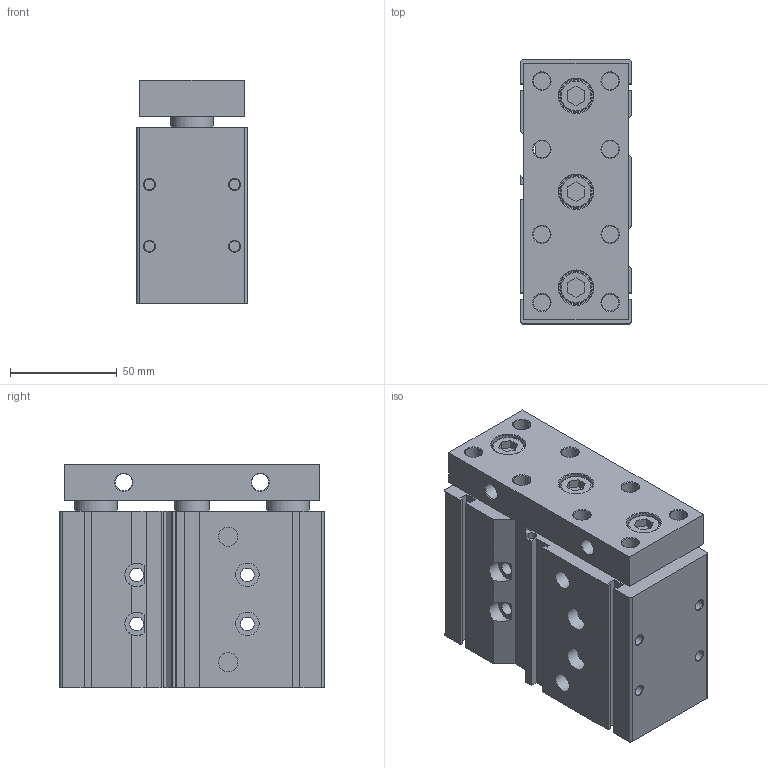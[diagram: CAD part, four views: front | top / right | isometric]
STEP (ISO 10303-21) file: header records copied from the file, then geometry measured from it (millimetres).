
FILE_DESCRIPTION((''),'2;1');
FILE_NAME('I:\3D電子目錄\氣缸\TB(U)\TB(U)40\TB(U)40\TB(U)40x30.stp','2007-08-06T08:29:40',('Administrator'),(''),'Autodesk Inventor 2008','Autodesk Inventor 2008','');
FILE_SCHEMA(('AUTOMOTIVE_DESIGN { 1 0 10303 214 1 1 1 1 }'));
Length unit declared in the file: millimetre
Products named in the file (1): TB(U)40X30
Bounding box: 52 x 124 x 105 mm (x, y, z)
Volume: 578435.9 mm3; surface area: 80050.6 mm2
Topology: 1 solids, 1 shells, 218 faces, 500 edges, 320 vertices
Faces by surface type: plane 104, cylinder 52, cone 37, bspline 22, torus 3
Full cylindrical faces by diameter (mm): 5 x4, 6 x4, 6.5 x4, 8 x10, 9 x2, 11 x6, 15 x3, 16 x4, 20 x4, 28 x2, 35 x1
Entity records: 5822 total; most frequent: CARTESIAN_POINT 1073, DIRECTION 962, ORIENTED_EDGE 824, EDGE_CURVE 412, EDGE_LOOP 374, AXIS2_PLACEMENT_3D 353, VERTEX_POINT 320, VECTOR 256
